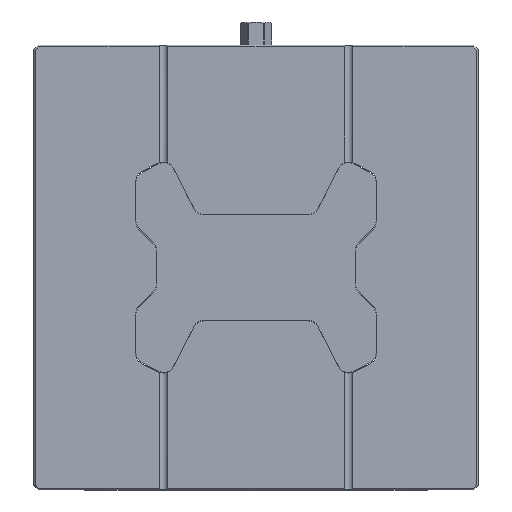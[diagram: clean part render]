
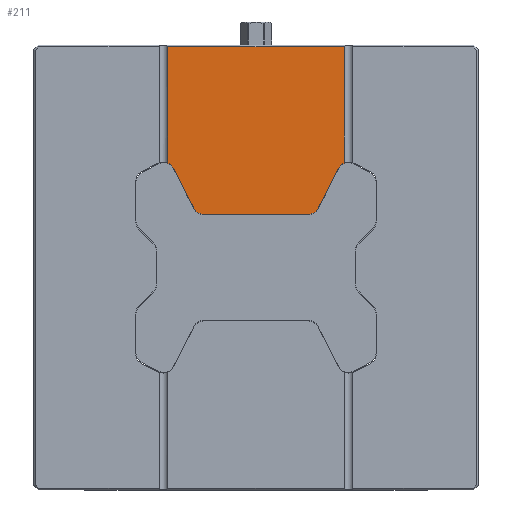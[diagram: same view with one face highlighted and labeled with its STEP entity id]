
A CAD part, front view. The second image highlights one B-rep face of the part: STEP entity #211.
In plain terms, the highlighted planar face has unit normal (0, -1, 0).
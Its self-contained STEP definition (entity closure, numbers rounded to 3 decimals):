
#211 = ADVANCED_FACE ( 'NONE', ( #14539 ), #14425, .T. ) ;
#610 = ORIENTED_EDGE ( 'NONE', *, *, #12104, .T. ) ;
#739 = VECTOR ( 'NONE', #4508, 1000. ) ;
#1094 = CIRCLE ( 'NONE', #8284, 5. ) ;
#1159 = CARTESIAN_POINT ( 'NONE',  ( 38.167, 0., 95.3 ) ) ;
#1301 = DIRECTION ( 'NONE',  ( 0., 0., -1. ) ) ;
#1473 = LINE ( 'NONE', #9745, #14807 ) ;
#1543 = DIRECTION ( 'NONE',  ( 0., 1., 0. ) ) ;
#1640 = CARTESIAN_POINT ( 'NONE',  ( 35.637, 0., 42.77 ) ) ;
#1950 = ORIENTED_EDGE ( 'NONE', *, *, #3941, .T. ) ;
#1983 = CARTESIAN_POINT ( 'NONE',  ( 22.5, 0., 23. ) ) ;
#2316 = EDGE_CURVE ( 'NONE', #12929, #16022, #3239, .T. ) ;
#2532 = DIRECTION ( 'NONE',  ( 0., 0., -1. ) ) ;
#2642 = AXIS2_PLACEMENT_3D ( 'NONE', #21017, #7985, #16126 ) ;
#3239 = CIRCLE ( 'NONE', #14901, 5. ) ;
#3255 = VERTEX_POINT ( 'NONE', #10461 ) ;
#3390 = EDGE_CURVE ( 'NONE', #16868, #11739, #17289, .T. ) ;
#3941 = EDGE_CURVE ( 'NONE', #20654, #10695, #5713, .T. ) ;
#3963 = DIRECTION ( 'NONE',  ( 0., -1., 0. ) ) ;
#4508 = DIRECTION ( 'NONE',  ( -1., 0., 0. ) ) ;
#4614 = LINE ( 'NONE', #11163, #10359 ) ;
#4710 = VECTOR ( 'NONE', #13651, 1000. ) ;
#4873 = CARTESIAN_POINT ( 'NONE',  ( 38.167, 0., 45.114 ) ) ;
#5563 = ORIENTED_EDGE ( 'NONE', *, *, #19445, .T. ) ;
#5713 = CIRCLE ( 'NONE', #2642, 5. ) ;
#6221 = CARTESIAN_POINT ( 'NONE',  ( 38.167, 0., 96.25 ) ) ;
#6391 = CIRCLE ( 'NONE', #18380, 5. ) ;
#7169 = DIRECTION ( 'NONE',  ( 0., 0., -1. ) ) ;
#7217 = LINE ( 'NONE', #1983, #4710 ) ;
#7265 = AXIS2_PLACEMENT_3D ( 'NONE', #14830, #19327, #11442 ) ;
#7539 = VECTOR ( 'NONE', #19924, 1000. ) ;
#7841 = EDGE_CURVE ( 'NONE', #3255, #12929, #4614, .T. ) ;
#7985 = DIRECTION ( 'NONE',  ( 0., -1., 0. ) ) ;
#8155 = ORIENTED_EDGE ( 'NONE', *, *, #17136, .T. ) ;
#8284 = AXIS2_PLACEMENT_3D ( 'NONE', #13829, #3963, #7169 ) ;
#8339 = CARTESIAN_POINT ( 'NONE',  ( 22.5, 0., 23. ) ) ;
#8794 = EDGE_CURVE ( 'NONE', #16868, #3255, #10736, .T. ) ;
#8796 = VECTOR ( 'NONE', #1301, 1000. ) ;
#8946 = DIRECTION ( 'NONE',  ( 0., 0., -1. ) ) ;
#9191 = CARTESIAN_POINT ( 'NONE',  ( 26.955, 0., 25.73 ) ) ;
#9231 = CARTESIAN_POINT ( 'NONE',  ( -38.167, 0., 95.3 ) ) ;
#9745 = CARTESIAN_POINT ( 'NONE',  ( -26.955, 0., 25.73 ) ) ;
#10359 = VECTOR ( 'NONE', #8946, 1000. ) ;
#10375 = CARTESIAN_POINT ( 'NONE',  ( -38.167, 0., 45.114 ) ) ;
#10443 = ORIENTED_EDGE ( 'NONE', *, *, #2316, .T. ) ;
#10461 = CARTESIAN_POINT ( 'NONE',  ( -38.167, 0., 95.3 ) ) ;
#10695 = VERTEX_POINT ( 'NONE', #13397 ) ;
#10699 = DIRECTION ( 'NONE',  ( 0., 1., 0. ) ) ;
#10736 = LINE ( 'NONE', #9231, #739 ) ;
#10895 = CARTESIAN_POINT ( 'NONE',  ( 40.092, 0., 40.5 ) ) ;
#11163 = CARTESIAN_POINT ( 'NONE',  ( -38.167, 0., 96.25 ) ) ;
#11442 = DIRECTION ( 'NONE',  ( 0., 0., -1. ) ) ;
#11739 = VERTEX_POINT ( 'NONE', #4873 ) ;
#12104 = EDGE_CURVE ( 'NONE', #18110, #18315, #17937, .T. ) ;
#12428 = EDGE_LOOP ( 'NONE', ( #20074, #19910, #19136, #10443, #16624, #1950, #15220, #5563, #610, #8155 ) ) ;
#12731 = CARTESIAN_POINT ( 'NONE',  ( -26.955, 0., 25.73 ) ) ;
#12929 = VERTEX_POINT ( 'NONE', #10375 ) ;
#13397 = CARTESIAN_POINT ( 'NONE',  ( -22.5, 0., 23. ) ) ;
#13651 = DIRECTION ( 'NONE',  ( 1., 0., 0. ) ) ;
#13829 = CARTESIAN_POINT ( 'NONE',  ( 22.5, 0., 28. ) ) ;
#14425 = PLANE ( 'NONE',  #7265 ) ;
#14539 = FACE_OUTER_BOUND ( 'NONE', #12428, .T. ) ;
#14807 = VECTOR ( 'NONE', #16254, 1000. ) ;
#14830 = CARTESIAN_POINT ( 'NONE',  ( 96., 0., -96. ) ) ;
#14901 = AXIS2_PLACEMENT_3D ( 'NONE', #16118, #1543, #19822 ) ;
#15220 = ORIENTED_EDGE ( 'NONE', *, *, #17307, .T. ) ;
#16022 = VERTEX_POINT ( 'NONE', #16377 ) ;
#16118 = CARTESIAN_POINT ( 'NONE',  ( -40.092, 0., 40.5 ) ) ;
#16126 = DIRECTION ( 'NONE',  ( 0., 0., -1. ) ) ;
#16254 = DIRECTION ( 'NONE',  ( 0.454, 0., -0.891 ) ) ;
#16377 = CARTESIAN_POINT ( 'NONE',  ( -35.637, 0., 42.77 ) ) ;
#16624 = ORIENTED_EDGE ( 'NONE', *, *, #20445, .T. ) ;
#16868 = VERTEX_POINT ( 'NONE', #1159 ) ;
#17136 = EDGE_CURVE ( 'NONE', #18315, #11739, #6391, .T. ) ;
#17289 = LINE ( 'NONE', #6221, #8796 ) ;
#17307 = EDGE_CURVE ( 'NONE', #10695, #19652, #7217, .T. ) ;
#17937 = LINE ( 'NONE', #1640, #7539 ) ;
#17954 = CARTESIAN_POINT ( 'NONE',  ( 35.637, 0., 42.77 ) ) ;
#18110 = VERTEX_POINT ( 'NONE', #9191 ) ;
#18315 = VERTEX_POINT ( 'NONE', #17954 ) ;
#18380 = AXIS2_PLACEMENT_3D ( 'NONE', #10895, #10699, #2532 ) ;
#19136 = ORIENTED_EDGE ( 'NONE', *, *, #7841, .T. ) ;
#19327 = DIRECTION ( 'NONE',  ( 0., -1., 0. ) ) ;
#19445 = EDGE_CURVE ( 'NONE', #19652, #18110, #1094, .T. ) ;
#19652 = VERTEX_POINT ( 'NONE', #8339 ) ;
#19822 = DIRECTION ( 'NONE',  ( 0., 0., -1. ) ) ;
#19910 = ORIENTED_EDGE ( 'NONE', *, *, #8794, .T. ) ;
#19924 = DIRECTION ( 'NONE',  ( 0.454, 0., 0.891 ) ) ;
#20074 = ORIENTED_EDGE ( 'NONE', *, *, #3390, .F. ) ;
#20445 = EDGE_CURVE ( 'NONE', #16022, #20654, #1473, .T. ) ;
#20654 = VERTEX_POINT ( 'NONE', #12731 ) ;
#21017 = CARTESIAN_POINT ( 'NONE',  ( -22.5, 0., 28. ) ) ;
